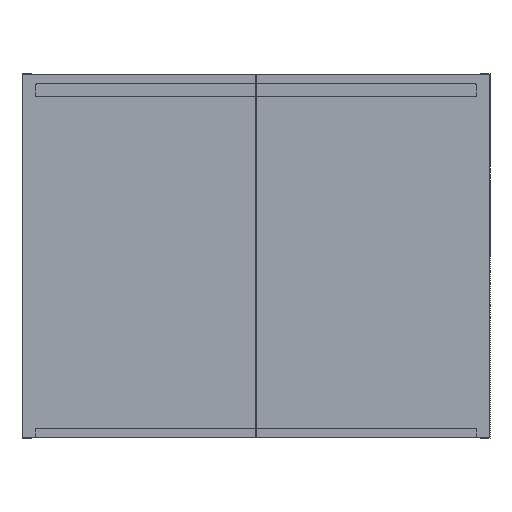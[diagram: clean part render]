
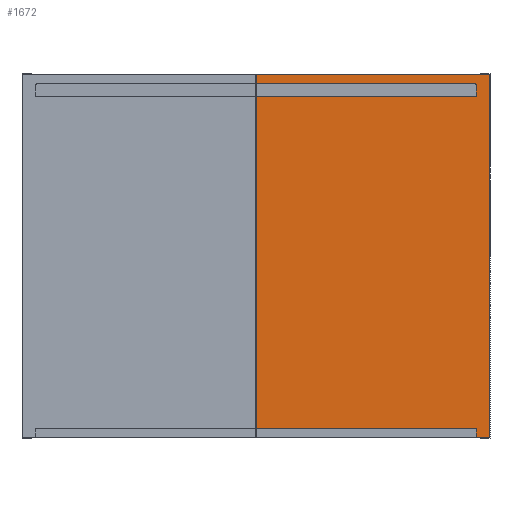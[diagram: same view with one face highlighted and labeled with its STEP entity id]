
A CAD part, front view. The second image highlights one B-rep face of the part: STEP entity #1672.
In plain terms, the highlighted planar face has unit normal (0, -1, 0).
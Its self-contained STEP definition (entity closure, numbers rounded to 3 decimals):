
#23=CIRCLE('',#1777,3.);
#24=CIRCLE('',#1780,3.);
#26=CIRCLE('',#1786,3.);
#101=FACE_OUTER_BOUND('',#189,.T.);
#189=EDGE_LOOP('',(#1320,#1321,#1322,#1323,#1324,#1325,#1326,#1327,#1328,
#1329,#1330,#1331,#1332));
#355=LINE('',#2520,#565);
#357=LINE('',#2525,#567);
#360=LINE('',#2533,#570);
#368=LINE('',#2553,#578);
#369=LINE('',#2557,#579);
#372=LINE('',#2563,#582);
#373=LINE('',#2565,#583);
#374=LINE('',#2567,#584);
#375=LINE('',#2569,#585);
#376=LINE('',#2570,#586);
#565=VECTOR('',#2073,10.);
#567=VECTOR('',#2077,10.);
#570=VECTOR('',#2086,10.);
#578=VECTOR('',#2104,10.);
#579=VECTOR('',#2107,10.);
#582=VECTOR('',#2116,10.);
#583=VECTOR('',#2117,10.);
#584=VECTOR('',#2118,10.);
#585=VECTOR('',#2119,10.);
#586=VECTOR('',#2120,10.);
#729=VERTEX_POINT('',#2516);
#730=VERTEX_POINT('',#2518);
#731=VERTEX_POINT('',#2522);
#732=VERTEX_POINT('',#2524);
#733=VERTEX_POINT('',#2528);
#734=VERTEX_POINT('',#2532);
#740=VERTEX_POINT('',#2549);
#741=VERTEX_POINT('',#2551);
#742=VERTEX_POINT('',#2555);
#743=VERTEX_POINT('',#2556);
#744=VERTEX_POINT('',#2564);
#745=VERTEX_POINT('',#2566);
#746=VERTEX_POINT('',#2568);
#925=EDGE_CURVE('',#729,#730,#355,.T.);
#927=EDGE_CURVE('',#732,#731,#357,.T.);
#929=EDGE_CURVE('',#733,#732,#23,.T.);
#931=EDGE_CURVE('',#734,#733,#360,.T.);
#933=EDGE_CURVE('',#730,#734,#24,.T.);
#941=EDGE_CURVE('',#740,#741,#368,.T.);
#942=EDGE_CURVE('',#742,#743,#369,.T.);
#945=EDGE_CURVE('',#741,#742,#26,.T.);
#946=EDGE_CURVE('',#731,#740,#372,.T.);
#947=EDGE_CURVE('',#743,#744,#373,.T.);
#948=EDGE_CURVE('',#745,#744,#374,.T.);
#949=EDGE_CURVE('',#746,#745,#375,.T.);
#950=EDGE_CURVE('',#746,#729,#376,.T.);
#1320=ORIENTED_EDGE('',*,*,#925,.T.);
#1321=ORIENTED_EDGE('',*,*,#933,.T.);
#1322=ORIENTED_EDGE('',*,*,#931,.T.);
#1323=ORIENTED_EDGE('',*,*,#929,.T.);
#1324=ORIENTED_EDGE('',*,*,#927,.T.);
#1325=ORIENTED_EDGE('',*,*,#946,.T.);
#1326=ORIENTED_EDGE('',*,*,#941,.T.);
#1327=ORIENTED_EDGE('',*,*,#945,.T.);
#1328=ORIENTED_EDGE('',*,*,#942,.T.);
#1329=ORIENTED_EDGE('',*,*,#947,.T.);
#1330=ORIENTED_EDGE('',*,*,#948,.F.);
#1331=ORIENTED_EDGE('',*,*,#949,.F.);
#1332=ORIENTED_EDGE('',*,*,#950,.T.);
#1504=PLANE('',#1787);
#1672=ADVANCED_FACE('',(#101),#1504,.T.);
#1777=AXIS2_PLACEMENT_3D('',#2529,#2081,#2082);
#1780=AXIS2_PLACEMENT_3D('',#2536,#2090,#2091);
#1786=AXIS2_PLACEMENT_3D('',#2561,#2112,#2113);
#1787=AXIS2_PLACEMENT_3D('',#2562,#2114,#2115);
#2073=DIRECTION('',(1.,0.,0.));
#2077=DIRECTION('',(-1.,0.,0.));
#2081=DIRECTION('center_axis',(0.,1.,0.));
#2082=DIRECTION('ref_axis',(0.,0.,1.));
#2086=DIRECTION('',(0.,0.,-1.));
#2090=DIRECTION('center_axis',(0.,1.,0.));
#2091=DIRECTION('ref_axis',(-1.,0.,0.));
#2104=DIRECTION('',(1.,0.,0.));
#2107=DIRECTION('',(0.,0.,-1.));
#2112=DIRECTION('center_axis',(0.,1.,0.));
#2113=DIRECTION('ref_axis',(1.,0.,0.));
#2114=DIRECTION('center_axis',(0.,-1.,0.));
#2115=DIRECTION('ref_axis',(0.,0.,-1.));
#2116=DIRECTION('',(0.,0.,-1.));
#2117=DIRECTION('',(1.,0.,0.));
#2118=DIRECTION('',(0.,0.,-1.));
#2119=DIRECTION('',(1.,0.,0.));
#2120=DIRECTION('',(0.,0.,-1.));
#2516=CARTESIAN_POINT('',(1.,-150.,681.));
#2518=CARTESIAN_POINT('',(421.,-150.,681.));
#2520=CARTESIAN_POINT('',(-210.5,-150.,681.));
#2522=CARTESIAN_POINT('',(1.,-150.,656.));
#2524=CARTESIAN_POINT('',(421.,-150.,656.));
#2525=CARTESIAN_POINT('',(210.5,-150.,656.));
#2528=CARTESIAN_POINT('',(424.,-150.,659.));
#2529=CARTESIAN_POINT('Origin',(421.,-150.,659.));
#2532=CARTESIAN_POINT('',(424.,-150.,678.));
#2533=CARTESIAN_POINT('',(424.,-150.,688.5));
#2536=CARTESIAN_POINT('Origin',(421.,-150.,678.));
#2549=CARTESIAN_POINT('',(1.,-150.,19.));
#2551=CARTESIAN_POINT('',(421.,-150.,19.));
#2553=CARTESIAN_POINT('',(-210.5,-150.,19.));
#2555=CARTESIAN_POINT('',(424.,-150.,16.));
#2556=CARTESIAN_POINT('',(424.,-150.,1.));
#2557=CARTESIAN_POINT('',(424.,-150.,357.5));
#2561=CARTESIAN_POINT('Origin',(421.,-150.,16.));
#2562=CARTESIAN_POINT('Origin',(0.,-150.,699.));
#2563=CARTESIAN_POINT('',(1.,-150.,699.));
#2564=CARTESIAN_POINT('',(449.,-150.,1.));
#2565=CARTESIAN_POINT('',(0.,-150.,1.));
#2566=CARTESIAN_POINT('',(449.,-150.,699.));
#2567=CARTESIAN_POINT('',(449.,-150.,699.));
#2568=CARTESIAN_POINT('',(1.,-150.,699.));
#2569=CARTESIAN_POINT('',(0.,-150.,699.));
#2570=CARTESIAN_POINT('',(1.,-150.,699.));
